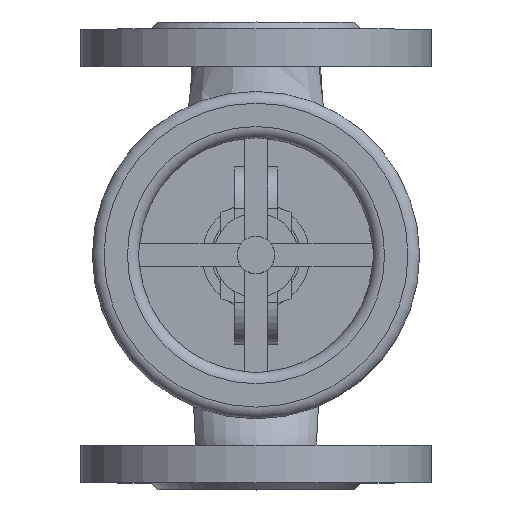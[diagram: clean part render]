
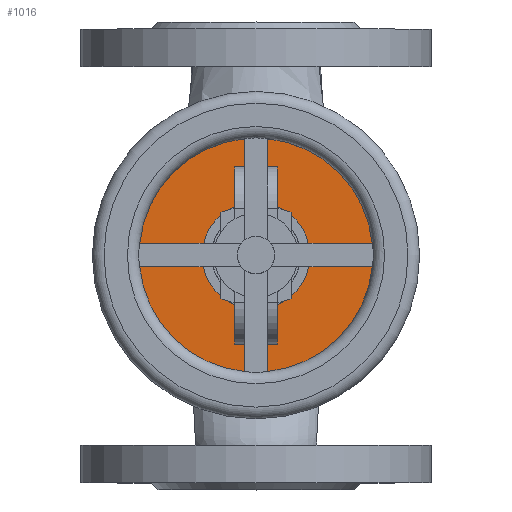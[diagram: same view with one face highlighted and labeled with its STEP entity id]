
A CAD part, top view. The second image highlights one B-rep face of the part: STEP entity #1016.
In plain terms, the highlighted planar face has unit normal (0, 0, 1).
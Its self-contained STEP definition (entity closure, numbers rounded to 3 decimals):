
#1016=ADVANCED_FACE('',(#8752,#8754),#8756,.T.);
#8752=FACE_BOUND('',#8753,.T.);
#8753=EDGE_LOOP('',(#14224,#14225,#14226,#14227,#14228,#14229,#14230,#14231,#14232));
#8754=FACE_BOUND('',#8755,.T.);
#8755=EDGE_LOOP('',(#14233));
#8756=PLANE('',#8757);
#8757=AXIS2_PLACEMENT_3D('',#8758,#8759,#8760);
#8758=CARTESIAN_POINT('',(0.,0.,76.));
#8759=DIRECTION('',(0.,0.,1.));
#8760=DIRECTION('',(0.,1.,0.));
#14224=ORIENTED_EDGE('',*,*,#15032,.F.);
#14225=ORIENTED_EDGE('',*,*,#15046,.T.);
#14226=ORIENTED_EDGE('',*,*,#15045,.F.);
#14227=ORIENTED_EDGE('',*,*,#15042,.T.);
#14228=ORIENTED_EDGE('',*,*,#15041,.F.);
#14229=ORIENTED_EDGE('',*,*,#15039,.T.);
#14230=ORIENTED_EDGE('',*,*,#15037,.F.);
#14231=ORIENTED_EDGE('',*,*,#15034,.T.);
#14232=ORIENTED_EDGE('',*,*,#15033,.T.);
#14233=ORIENTED_EDGE('',*,*,#15064,.T.);
#15032=EDGE_CURVE('',#15756,#15754,#15758,.F.);
#15033=EDGE_CURVE('',#15759,#15754,#15760,.T.);
#15034=EDGE_CURVE('',#15761,#15759,#15762,.T.);
#15037=EDGE_CURVE('',#15761,#15764,#15766,.F.);
#15039=EDGE_CURVE('',#15767,#15764,#15769,.T.);
#15041=EDGE_CURVE('',#15767,#15770,#15772,.F.);
#15042=EDGE_CURVE('',#15773,#15770,#15774,.T.);
#15045=EDGE_CURVE('',#15773,#15776,#15778,.F.);
#15046=EDGE_CURVE('',#15756,#15776,#15779,.T.);
#15064=EDGE_CURVE('',#15810,#15810,#15811,.T.);
#15754=VERTEX_POINT('',#19584);
#15756=VERTEX_POINT('',#19588);
#15758=LINE('',#19592,#19593);
#15759=VERTEX_POINT('',#19595);
#15760=LINE('',#19596,#19597);
#15761=VERTEX_POINT('',#19599);
#15762=LINE('',#19600,#19601);
#15764=VERTEX_POINT('',#19606);
#15766=LINE('',#19610,#19611);
#15767=VERTEX_POINT('',#19613);
#15769=LINE('',#19617,#19618);
#15770=VERTEX_POINT('',#19620);
#15772=LINE('',#19624,#19625);
#15773=VERTEX_POINT('',#19627);
#15774=LINE('',#19628,#19629);
#15776=VERTEX_POINT('',#19634);
#15778=LINE('',#19638,#19639);
#15779=LINE('',#19641,#19642);
#15810=VERTEX_POINT('',#19912);
#15811=CIRCLE('',#19913,23.);
#19584=CARTESIAN_POINT('',(-40.,50.,76.));
#19588=CARTESIAN_POINT('',(-50.,40.,76.));
#19592=CARTESIAN_POINT('',(-40.,50.,76.));
#19593=VECTOR('',#19594,1.);
#19594=DIRECTION('',(-0.707,-0.707,0.));
#19595=CARTESIAN_POINT('',(0.,50.,76.));
#19596=CARTESIAN_POINT('',(0.,50.,76.));
#19597=VECTOR('',#19598,1.);
#19598=DIRECTION('',(-1.,0.,0.));
#19599=CARTESIAN_POINT('',(40.,50.,76.));
#19600=CARTESIAN_POINT('',(40.,50.,76.));
#19601=VECTOR('',#19602,1.);
#19602=DIRECTION('',(-1.,0.,0.));
#19606=CARTESIAN_POINT('',(50.,40.,76.));
#19610=CARTESIAN_POINT('',(50.,40.,76.));
#19611=VECTOR('',#19612,1.);
#19612=DIRECTION('',(-0.707,0.707,0.));
#19613=CARTESIAN_POINT('',(50.,-40.,76.));
#19617=CARTESIAN_POINT('',(50.,-40.,76.));
#19618=VECTOR('',#19619,1.);
#19619=DIRECTION('',(0.,1.,0.));
#19620=CARTESIAN_POINT('',(40.,-50.,76.));
#19624=CARTESIAN_POINT('',(40.,-50.,76.));
#19625=VECTOR('',#19626,1.);
#19626=DIRECTION('',(0.707,0.707,0.));
#19627=CARTESIAN_POINT('',(-40.,-50.,76.));
#19628=CARTESIAN_POINT('',(-40.,-50.,76.));
#19629=VECTOR('',#19630,1.);
#19630=DIRECTION('',(1.,0.,0.));
#19634=CARTESIAN_POINT('',(-50.,-40.,76.));
#19638=CARTESIAN_POINT('',(-50.,-40.,76.));
#19639=VECTOR('',#19640,1.);
#19640=DIRECTION('',(0.707,-0.707,0.));
#19641=CARTESIAN_POINT('',(-50.,40.,76.));
#19642=VECTOR('',#19643,1.);
#19643=DIRECTION('',(0.,-1.,0.));
#19912=CARTESIAN_POINT('',(0.,23.,76.));
#19913=AXIS2_PLACEMENT_3D('',#19914,#19915,#19916);
#19914=CARTESIAN_POINT('',(0.,0.,76.));
#19915=DIRECTION('',(0.,0.,-1.));
#19916=DIRECTION('',(0.,1.,0.));
